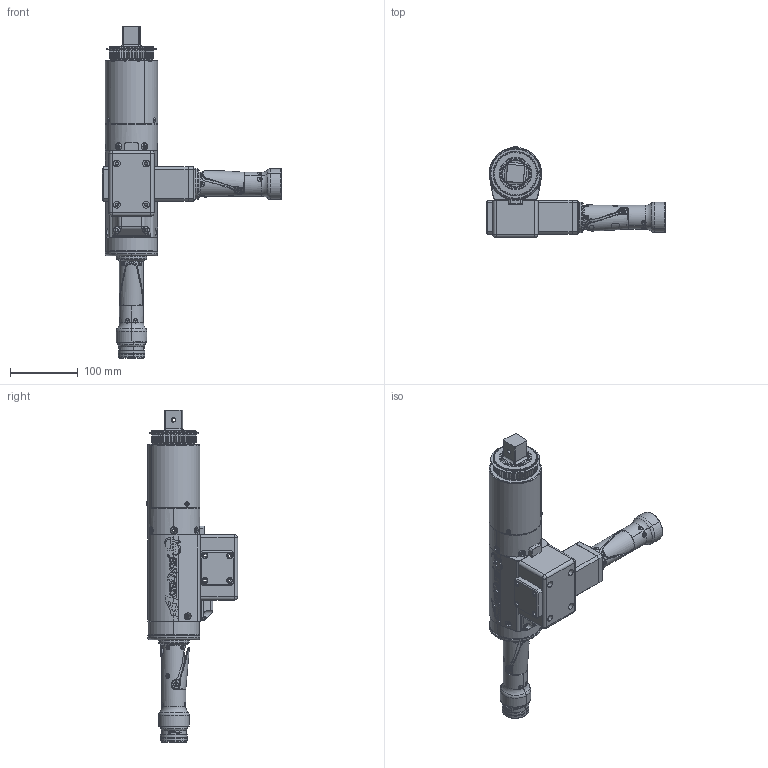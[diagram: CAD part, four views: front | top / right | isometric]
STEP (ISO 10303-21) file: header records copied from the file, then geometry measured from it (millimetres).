
FILE_DESCRIPTION (( 'STEP AP214' ), '1' );
FILE_NAME ('AES4B771000BDLL.STEP', '2022-07-15T18:48:46', ( '' ), ( '' ), 'SwSTEP 2.0', 'SolidWorks 2022', '' );
FILE_SCHEMA (( 'AUTOMOTIVE_DESIGN' ));
Length unit declared in the file: inch
Products named in the file (1): AES4B771000BDLL
Bounding box: 264.78 x 135.01 x 491.09 mm (x, y, z)
Surface area: 250943.3 mm2 (no closed solid volume)
Topology: 0 solids, 164 shells, 1642 faces, 6296 edges, 4579 vertices
Faces by surface type: cylinder 500, plane 459, cone 226, torus 224, bspline 219, sphere 14
Entity records: 150531 total; most frequent: CARTESIAN_POINT 81551, ORIENTED_EDGE 9428, DIRECTION 8786, EDGE_CURVE 6290, VERTEX_POINT 4579, AXIS2_PLACEMENT_3D 3330, VECTOR 2126, LINE 2126
